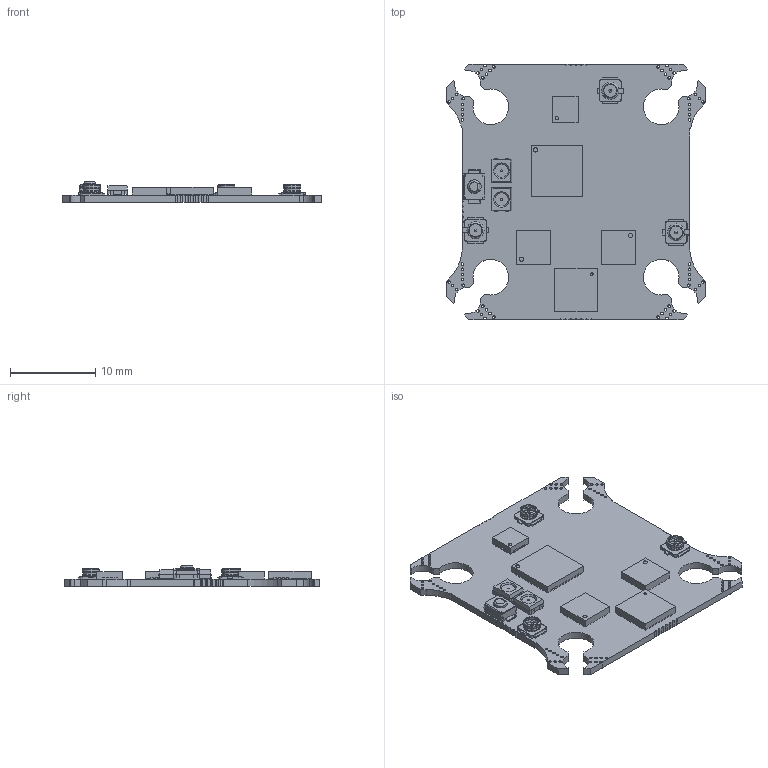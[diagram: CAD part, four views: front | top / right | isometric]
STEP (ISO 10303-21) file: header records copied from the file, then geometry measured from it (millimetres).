
FILE_DESCRIPTION(('Open CASCADE Model'),'2;1');
FILE_NAME('Open CASCADE Shape Model','2021-08-22T16:54:07',('Author'),( 'Open CASCADE'),'Open CASCADE STEP processor 6.8','Open CASCADE 6.8' ,'Unknown');
FILE_SCHEMA(('AUTOMOTIVE_DESIGN { 1 0 10303 214 1 1 1 1 }'));
Length unit declared in the file: millimetre
Products named in the file (77): PCB; Board; Open CASCADE STEP translator 6.8 2.1.1; Open CASCADE STEP translator 6.8 2.1.1.1; IC6; User_Library-QFN-24_-_EQ; CON1; U_FL-R-SMT-1; SW1; OMRON_B3U1000P; IC5; User_Library-QFN32-1; CON15; LED1; SK6805D_RGB_LED; CON3; IC4; QFN16_3x3; IC3; User_Library-QFN40-1; LED2; IC10
Assembly tree (118 placements, depth 4):
  PCB
    Board
      Open CASCADE STEP translator 6.8 2.1.1
        Open CASCADE STEP translator 6.8 2.1.1.1
    IC6
      User_Library-QFN-24_-_EQ
    CON1
      U_FL-R-SMT-1
      U_FL-R-SMT-1
      U_FL-R-SMT-1
      U_FL-R-SMT-1
      U_FL-R-SMT-1
      U_FL-R-SMT-1
      U_FL-R-SMT-1
    SW1
      OMRON_B3U1000P  x2
      OMRON_B3U1000P
      OMRON_B3U1000P  x2
      OMRON_B3U1000P
      OMRON_B3U1000P  x2
      OMRON_B3U1000P
      OMRON_B3U1000P  x2
      OMRON_B3U1000P
      OMRON_B3U1000P  x2
      OMRON_B3U1000P
      OMRON_B3U1000P  x2
      OMRON_B3U1000P
      OMRON_B3U1000P  x2
      OMRON_B3U1000P
    IC5
      User_Library-QFN32-1
    CON15
      U_FL-R-SMT-1
      U_FL-R-SMT-1
      U_FL-R-SMT-1
      U_FL-R-SMT-1
      U_FL-R-SMT-1
      U_FL-R-SMT-1
      U_FL-R-SMT-1
    LED1
      SK6805D_RGB_LED
    CON3
      U_FL-R-SMT-1
      U_FL-R-SMT-1
      U_FL-R-SMT-1
      U_FL-R-SMT-1
      U_FL-R-SMT-1
      U_FL-R-SMT-1
      U_FL-R-SMT-1
    IC4
      QFN16_3x3  x2
      QFN16_3x3
      QFN16_3x3  x2
      QFN16_3x3
      QFN16_3x3  x2
      QFN16_3x3
      QFN16_3x3  x2
      QFN16_3x3
      QFN16_3x3  x2
      QFN16_3x3
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Bounding box: 30.5 x 29.99 x 2.45 mm (x, y, z)
Volume: 841.2 mm3; surface area: 2596.6 mm2
Topology: 105 solids, 105 shells, 2716 faces, 7365 edges, 4880 vertices
Faces by surface type: plane 2105, cylinder 563, torus 40, revolution 6, cone 2
Full cylindrical faces by diameter (mm): 0.2 x2, 0.3 x63, 0.4 x3, 0.5 x5, 0.8 x1, 1.6 x3, 1.8 x3, 1.801 x3, 2 x6
Entity records: 74903 total; most frequent: CARTESIAN_POINT 10498, ORIENTED_EDGE 10108, DIRECTION 9752, EDGE_CURVE 5054, LINE 4203, VECTOR 4203, VERTEX_POINT 3356, AXIS2_PLACEMENT_3D 2773
